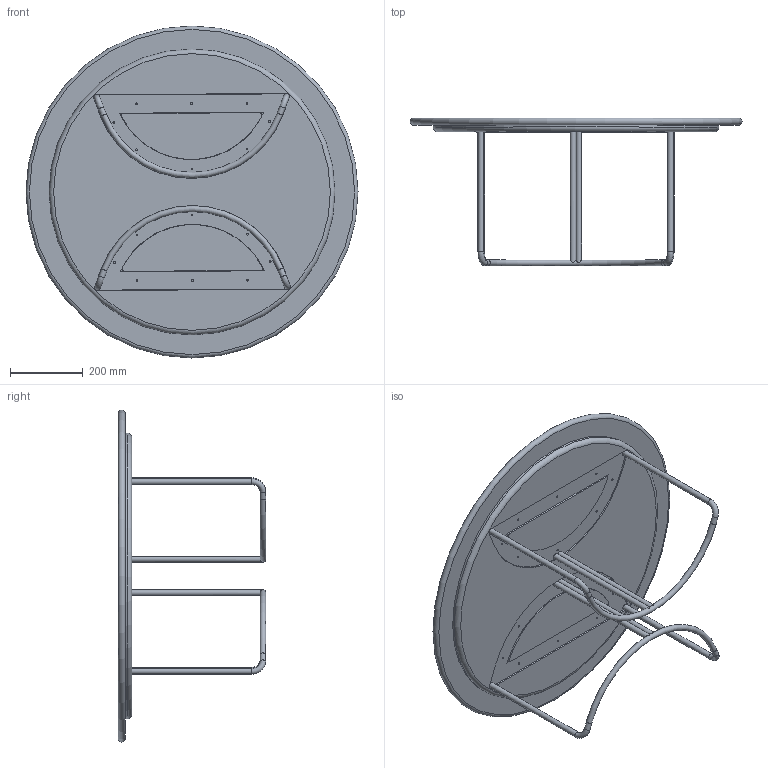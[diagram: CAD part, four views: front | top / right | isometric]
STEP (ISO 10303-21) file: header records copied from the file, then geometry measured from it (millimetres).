
FILE_DESCRIPTION(/* description */ (''),/* implementation_level */ '2;1');
FILE_NAME(/* name */ '1066.stp',/* time_stamp */ '2025-09-26T15:08:28-04:00',/* author */ ('abieber'),/* organization */ (''),/* preprocessor_version */ 'ST-DEVELOPER v20',/* originating_system */ 'Autodesk Inventor 2025',/* authorisation */ '');
FILE_SCHEMA (('AUTOMOTIVE_DESIGN { 1 0 10303 214 3 1 1 }'));
Length unit declared in the file: inch
Products named in the file (9): 1066; 1066-TOP - PROTOTYPE; 1066-SUBTOP - PROTOTYPE; BA1066; BA1066-003; BA1066-005 ; BA1066-004 ; BA1066-007; BA1066-001
Assembly tree (11 placements, depth 4):
  1066
    1066-TOP - PROTOTYPE
    1066-SUBTOP - PROTOTYPE
    BA1066  x2
      BA1066-003
        BA1066-005 
        BA1066-004   x2
      BA1066-007
      BA1066-001
Bounding box: 914.4 x 406.41 x 914.4 mm (x, y, z)
Volume: 21658674.3 mm3; surface area: 2834827.8 mm2
Topology: 14 solids, 14 shells, 105 faces, 227 edges, 154 vertices
Faces by surface type: cylinder 53, plane 44, torus 8
Full cylindrical faces by diameter (mm): 4.762 x16, 15.875 x12, 787.4 x1
Entity records: 2102 total; most frequent: DIRECTION 364, CARTESIAN_POINT 304, ORIENTED_EDGE 268, AXIS2_PLACEMENT_3D 150, EDGE_CURVE 134, VERTEX_POINT 90, EDGE_LOOP 82, CIRCLE 67
